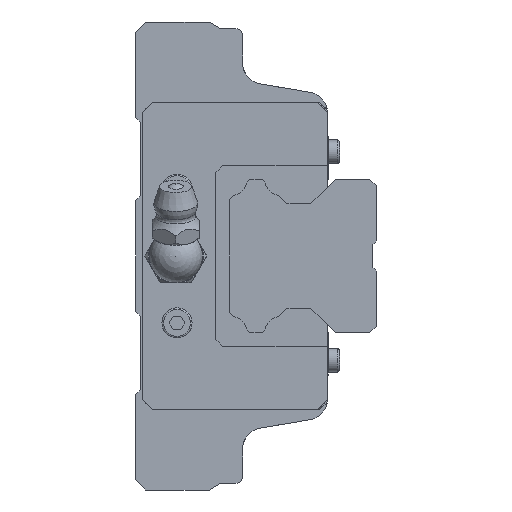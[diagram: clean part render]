
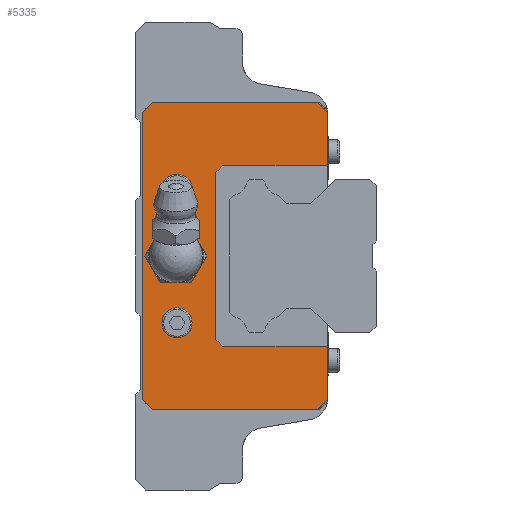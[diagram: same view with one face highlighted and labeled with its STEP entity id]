
A CAD part, left-side view. The second image highlights one B-rep face of the part: STEP entity #5335.
In plain terms, the highlighted planar face has unit normal (-1, 0, 0).
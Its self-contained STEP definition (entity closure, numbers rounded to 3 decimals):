
#265=CIRCLE('',#5811,3.);
#266=CIRCLE('',#5812,2.25);
#267=CIRCLE('',#5813,2.25);
#413=LINE('',#7835,#945);
#424=LINE('',#7859,#956);
#457=LINE('',#7927,#989);
#474=LINE('',#7962,#1006);
#510=LINE('',#8033,#1042);
#532=LINE('',#8083,#1064);
#554=LINE('',#8124,#1086);
#709=LINE('',#8659,#1241);
#711=LINE('',#8662,#1243);
#718=LINE('',#8689,#1250);
#719=LINE('',#8692,#1251);
#720=LINE('',#8693,#1252);
#721=LINE('',#8695,#1253);
#722=LINE('',#8697,#1254);
#945=VECTOR('',#6323,1000.);
#956=VECTOR('',#6342,1000.);
#989=VECTOR('',#6391,1000.);
#1006=VECTOR('',#6412,1000.);
#1042=VECTOR('',#6472,1000.);
#1064=VECTOR('',#6506,1000.);
#1086=VECTOR('',#6530,1000.);
#1241=VECTOR('',#6977,1000.);
#1243=VECTOR('',#6981,1000.);
#1250=VECTOR('',#7008,1000.);
#1251=VECTOR('',#7009,1000.);
#1252=VECTOR('',#7010,1000.);
#1253=VECTOR('',#7011,1000.);
#1254=VECTOR('',#7012,1000.);
#2336=ORIENTED_EDGE('',*,*,#3415,.T.);
#2337=ORIENTED_EDGE('',*,*,#3416,.F.);
#2338=ORIENTED_EDGE('',*,*,#3417,.F.);
#2339=ORIENTED_EDGE('',*,*,#3418,.T.);
#2340=ORIENTED_EDGE('',*,*,#3419,.T.);
#2341=ORIENTED_EDGE('',*,*,#3168,.F.);
#2342=ORIENTED_EDGE('',*,*,#3403,.T.);
#2343=ORIENTED_EDGE('',*,*,#3033,.F.);
#2344=ORIENTED_EDGE('',*,*,#3021,.F.);
#2345=ORIENTED_EDGE('',*,*,#3122,.F.);
#2346=ORIENTED_EDGE('',*,*,#3067,.F.);
#2347=ORIENTED_EDGE('',*,*,#3084,.F.);
#2348=ORIENTED_EDGE('',*,*,#3405,.T.);
#2349=ORIENTED_EDGE('',*,*,#3146,.F.);
#2350=ORIENTED_EDGE('',*,*,#3420,.T.);
#2351=ORIENTED_EDGE('',*,*,#3421,.T.);
#2352=ORIENTED_EDGE('',*,*,#3422,.T.);
#3021=EDGE_CURVE('',#3723,#3724,#413,.T.);
#3033=EDGE_CURVE('',#3724,#3733,#424,.T.);
#3067=EDGE_CURVE('',#3759,#3760,#457,.T.);
#3084=EDGE_CURVE('',#3775,#3759,#474,.T.);
#3122=EDGE_CURVE('',#3760,#3723,#510,.T.);
#3146=EDGE_CURVE('',#3820,#3821,#532,.T.);
#3168=EDGE_CURVE('',#3838,#3839,#554,.T.);
#3403=EDGE_CURVE('',#3838,#3733,#709,.T.);
#3405=EDGE_CURVE('',#3775,#3821,#711,.T.);
#3415=EDGE_CURVE('',#4012,#4012,#265,.T.);
#3416=EDGE_CURVE('',#4013,#4013,#266,.F.);
#3417=EDGE_CURVE('',#4014,#4014,#267,.F.);
#3418=EDGE_CURVE('',#4015,#4016,#718,.T.);
#3419=EDGE_CURVE('',#4016,#3839,#719,.T.);
#3420=EDGE_CURVE('',#3820,#4017,#720,.T.);
#3421=EDGE_CURVE('',#4017,#4018,#721,.T.);
#3422=EDGE_CURVE('',#4018,#4015,#722,.T.);
#3723=VERTEX_POINT('',#7834);
#3724=VERTEX_POINT('',#7836);
#3733=VERTEX_POINT('',#7860);
#3759=VERTEX_POINT('',#7926);
#3760=VERTEX_POINT('',#7928);
#3775=VERTEX_POINT('',#7961);
#3820=VERTEX_POINT('',#8082);
#3821=VERTEX_POINT('',#8084);
#3838=VERTEX_POINT('',#8123);
#3839=VERTEX_POINT('',#8125);
#4012=VERTEX_POINT('',#8684);
#4013=VERTEX_POINT('',#8686);
#4014=VERTEX_POINT('',#8688);
#4015=VERTEX_POINT('',#8690);
#4016=VERTEX_POINT('',#8691);
#4017=VERTEX_POINT('',#8694);
#4018=VERTEX_POINT('',#8696);
#4368=EDGE_LOOP('',(#2336));
#4369=EDGE_LOOP('',(#2337));
#4370=EDGE_LOOP('',(#2338));
#4371=EDGE_LOOP('',(#2339,#2340,#2341,#2342,#2343,#2344,#2345,#2346,#2347,
#2348,#2349,#2350,#2351,#2352));
#4763=FACE_BOUND('',#4368,.T.);
#4764=FACE_BOUND('',#4369,.T.);
#4765=FACE_BOUND('',#4370,.T.);
#4766=FACE_BOUND('',#4371,.T.);
#5073=PLANE('',#5810);
#5335=ADVANCED_FACE('',(#4763,#4764,#4765,#4766),#5073,.F.);
#5810=AXIS2_PLACEMENT_3D('',#8682,#7000,#7001);
#5811=AXIS2_PLACEMENT_3D('',#8683,#7002,#7003);
#5812=AXIS2_PLACEMENT_3D('',#8685,#7004,#7005);
#5813=AXIS2_PLACEMENT_3D('',#8687,#7006,#7007);
#6323=DIRECTION('',(0.,-0.707,0.707));
#6342=DIRECTION('',(0.,-1.,0.));
#6391=DIRECTION('',(0.,0.707,0.707));
#6412=DIRECTION('',(0.,1.,0.));
#6472=DIRECTION('',(0.,0.,1.));
#6506=DIRECTION('',(0.,0.,-1.));
#6530=DIRECTION('',(0.,0.,-1.));
#6977=DIRECTION('',(0.,0.707,0.707));
#6981=DIRECTION('',(0.,-0.707,0.707));
#7000=DIRECTION('',(1.,0.,0.));
#7001=DIRECTION('',(0.,0.,-1.));
#7002=DIRECTION('',(1.,0.,0.));
#7003=DIRECTION('',(0.,0.,-1.));
#7004=DIRECTION('',(1.,0.,0.));
#7005=DIRECTION('',(0.,0.,-1.));
#7006=DIRECTION('',(1.,0.,0.));
#7007=DIRECTION('',(0.,0.,-1.));
#7008=DIRECTION('',(0.,-0.707,0.707));
#7009=DIRECTION('',(0.,-1.,0.));
#7010=DIRECTION('',(0.,1.,0.));
#7011=DIRECTION('',(0.,0.707,0.707));
#7012=DIRECTION('',(0.,0.,1.));
#7834=CARTESIAN_POINT('',(-39.95,29.5,21.5));
#7835=CARTESIAN_POINT('',(-39.95,29.5,21.5));
#7836=CARTESIAN_POINT('',(-39.95,28.,23.));
#7859=CARTESIAN_POINT('',(-39.95,30.5,23.));
#7860=CARTESIAN_POINT('',(-39.95,3.317,23.));
#7926=CARTESIAN_POINT('',(-39.95,28.,-23.));
#7927=CARTESIAN_POINT('',(-39.95,28.,-23.));
#7928=CARTESIAN_POINT('',(-39.95,29.5,-21.5));
#7961=CARTESIAN_POINT('',(-39.95,3.317,-23.));
#7962=CARTESIAN_POINT('',(-39.95,0.,-23.));
#8033=CARTESIAN_POINT('',(-39.95,29.5,-21.5));
#8082=CARTESIAN_POINT('',(-39.95,1.817,-13.5));
#8083=CARTESIAN_POINT('',(-39.95,1.817,-17.8));
#8084=CARTESIAN_POINT('',(-39.95,1.817,-21.5));
#8123=CARTESIAN_POINT('',(-39.95,1.817,21.5));
#8124=CARTESIAN_POINT('',(-39.95,1.817,-17.8));
#8125=CARTESIAN_POINT('',(-39.95,1.817,13.5));
#8659=CARTESIAN_POINT('',(-39.95,3.317,23.));
#8662=CARTESIAN_POINT('',(-39.95,1.817,-21.5));
#8682=CARTESIAN_POINT('',(-39.95,0.,0.));
#8683=CARTESIAN_POINT('',(-39.95,24.5,0.));
#8684=CARTESIAN_POINT('',(-39.95,24.5,-3.));
#8685=CARTESIAN_POINT('',(-39.95,24.317,10.));
#8686=CARTESIAN_POINT('',(-39.95,24.317,7.75));
#8687=CARTESIAN_POINT('',(-39.95,24.317,-10.));
#8688=CARTESIAN_POINT('',(-39.95,24.317,-12.25));
#8689=CARTESIAN_POINT('',(-39.95,18.5,12.5));
#8690=CARTESIAN_POINT('',(-39.95,18.5,12.5));
#8691=CARTESIAN_POINT('',(-39.95,17.5,13.5));
#8692=CARTESIAN_POINT('',(-39.95,17.5,13.5));
#8693=CARTESIAN_POINT('',(-39.95,1.817,-13.5));
#8694=CARTESIAN_POINT('',(-39.95,17.5,-13.5));
#8695=CARTESIAN_POINT('',(-39.95,17.5,-13.5));
#8696=CARTESIAN_POINT('',(-39.95,18.5,-12.5));
#8697=CARTESIAN_POINT('',(-39.95,18.5,-12.5));
